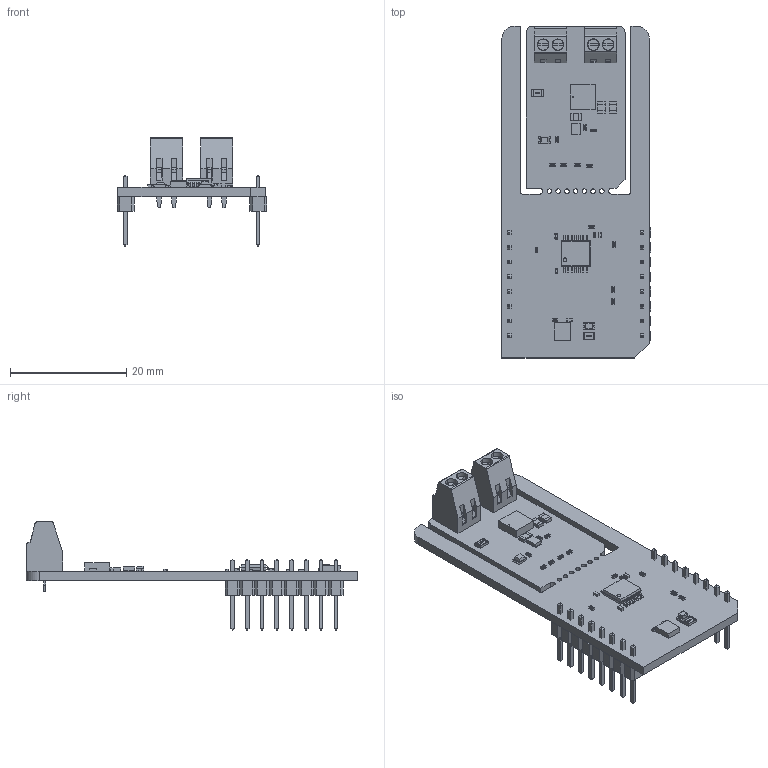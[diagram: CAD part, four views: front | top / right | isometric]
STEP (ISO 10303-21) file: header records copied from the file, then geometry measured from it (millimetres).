
FILE_DESCRIPTION(('Open CASCADE Model'),'2;1');
FILE_NAME('Open CASCADE Shape Model','2026-05-11T14:20:49',('Author'),( 'Open CASCADE'),'Open CASCADE STEP processor 7.5','Open CASCADE 7.5' ,'Unknown');
FILE_SCHEMA(('AUTOMOTIVE_DESIGN { 1 0 10303 214 1 1 1 1 }'));
Length unit declared in the file: millimetre
Products named in the file (58): PCB; Board; Open CASCADE STEP translator 7.5 3.1.1; MBD1; Header 1x8; Free-Models; 1240637040; User_Library-PinHeaderX5-1_PinHeaderX5_Body_1; User_Library-PinHeaderX5-1_PinHeaderX5_Pins_1; C2; User Library-SMD CAPACITOR0805; C3; C4; L1; IND_XFL4015-471MEB; LD2; CHIPLED-0805-RED; R3; User Library-R_0402; R5; R6; R7; R8; TB1; ScrewTerminal 2.54; U2; AP61406QFCBW8-7; Compound; LDF; JP2; User Library-R_0805; TB2; R9; R10; U1; 9590140448; Extruded; C1; User Library-SMD CAPACITOR0402; R2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
Assembly tree (85 placements, depth 7):
  PCB
    Board
      Open CASCADE STEP translator 7.5 3.1.1
    MBD1
      Header 1x8  x2
        PCB
          Free-Models
            1240637040  x2
              User_Library-PinHeaderX5-1_PinHeaderX5_Body_1
              User_Library-PinHeaderX5-1_PinHeaderX5_Pins_1
    C2
      User Library-SMD CAPACITOR0805
    C3
      User Library-SMD CAPACITOR0805
    C4
      User Library-SMD CAPACITOR0805
    L1
      IND_XFL4015-471MEB
    LD2
      CHIPLED-0805-RED
    R3
      User Library-R_0402
    R5
      User Library-R_0402
    R6
      User Library-R_0402
    R7
      User Library-R_0402
    R8
      User Library-R_0402
    TB1
      ScrewTerminal 2.54
    U2
      AP61406QFCBW8-7
        Compound
        LDF
    JP2
      User Library-R_0805
    TB2
      ScrewTerminal 2.54
    R9
      User Library-R_0402
    R10
      User Library-R_0402
    U1
      9590140448
        Extruded
    C1
      User Library-SMD CAPACITOR0402
    R2
      User Library-R_0402
    LD1
      led_0805_green
    R1
      User Library-R_0805
    C5
      User Library-SMD CAPACITOR0402
    C6
      User Library-SMD CAPACITOR0402
    R4
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Bounding box: 25.78 x 57.15 x 18.61 mm (x, y, z)
Volume: 3082.3 mm3; surface area: 6249.9 mm2
Topology: 126 solids, 126 shells, 3154 faces, 7985 edges, 5158 vertices
Faces by surface type: plane 2307, bspline 448, cylinder 339, sphere 60
Full cylindrical faces by diameter (mm): 0.215 x1, 0.8 x7
Entity records: 40331 total; most frequent: CARTESIAN_POINT 9715, ORIENTED_EDGE 5128, DIRECTION 4827, EDGE_CURVE 2564, LINE 2063, VECTOR 2063, VERTEX_POINT 1668, AXIS2_PLACEMENT_3D 1382
